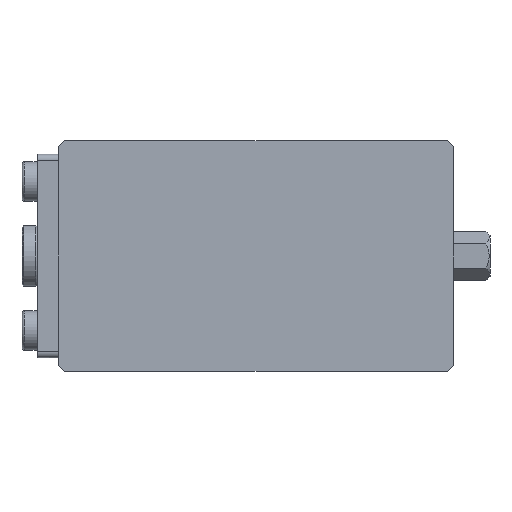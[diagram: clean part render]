
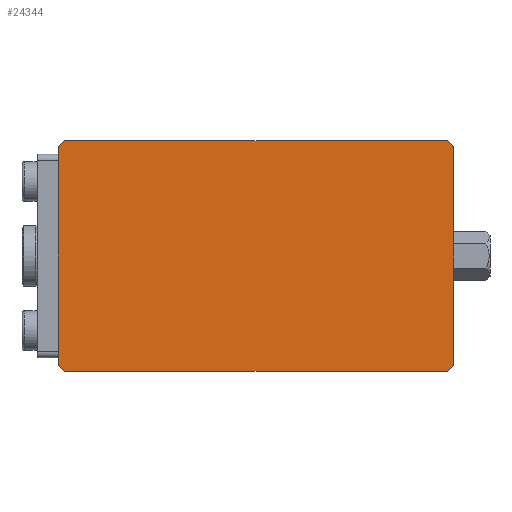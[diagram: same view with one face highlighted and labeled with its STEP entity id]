
A CAD part, front view. The second image highlights one B-rep face of the part: STEP entity #24344.
In plain terms, the highlighted planar face has unit normal (0, -1, 0).
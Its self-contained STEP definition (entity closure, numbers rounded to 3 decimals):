
#485 = ORIENTED_EDGE ( 'NONE', *, *, #61944, .T. ) ;
#2375 = CARTESIAN_POINT ( 'NONE',  ( 65., -56., -36. ) ) ;
#3207 = EDGE_LOOP ( 'NONE', ( #485, #63076, #24687, #57921, #12606, #48331, #15057, #34148 ) ) ;
#3384 = LINE ( 'NONE', #58543, #58209 ) ;
#3622 = CARTESIAN_POINT ( 'NONE',  ( -63., -56., -38. ) ) ;
#4255 = LINE ( 'NONE', #3622, #13674 ) ;
#4337 = CARTESIAN_POINT ( 'NONE',  ( 63., -56., 38. ) ) ;
#5201 = DIRECTION ( 'NONE',  ( 0., 0., -1. ) ) ;
#5643 = CARTESIAN_POINT ( 'NONE',  ( 65., -56., -38. ) ) ;
#8831 = EDGE_CURVE ( 'NONE', #51759, #31201, #15127, .T. ) ;
#9521 = VECTOR ( 'NONE', #33443, 1000. ) ;
#9992 = LINE ( 'NONE', #13931, #52871 ) ;
#11544 = VERTEX_POINT ( 'NONE', #2375 ) ;
#12606 = ORIENTED_EDGE ( 'NONE', *, *, #63874, .F. ) ;
#13104 = DIRECTION ( 'NONE',  ( 0., 0., 1. ) ) ;
#13674 = VECTOR ( 'NONE', #19292, 1000. ) ;
#13845 = DIRECTION ( 'NONE',  ( -0.707, 0., -0.707 ) ) ;
#13931 = CARTESIAN_POINT ( 'NONE',  ( 65., -56., 36. ) ) ;
#14496 = DIRECTION ( 'NONE',  ( -1., 0., 0. ) ) ;
#14748 = EDGE_CURVE ( 'NONE', #18038, #54392, #3384, .T. ) ;
#15057 = ORIENTED_EDGE ( 'NONE', *, *, #19943, .T. ) ;
#15127 = LINE ( 'NONE', #5643, #32784 ) ;
#17222 = CARTESIAN_POINT ( 'NONE',  ( 65., -56., 38. ) ) ;
#17444 = EDGE_CURVE ( 'NONE', #21158, #48352, #9992, .T. ) ;
#17772 = LINE ( 'NONE', #51728, #53533 ) ;
#18038 = VERTEX_POINT ( 'NONE', #18201 ) ;
#18201 = CARTESIAN_POINT ( 'NONE',  ( -63., -56., 38. ) ) ;
#18288 = CARTESIAN_POINT ( 'NONE',  ( -63., -56., -38. ) ) ;
#19292 = DIRECTION ( 'NONE',  ( 0.707, 0., -0.707 ) ) ;
#19943 = EDGE_CURVE ( 'NONE', #48352, #18038, #61930, .T. ) ;
#21158 = VERTEX_POINT ( 'NONE', #29603 ) ;
#24056 = CARTESIAN_POINT ( 'NONE',  ( 63., -56., -38. ) ) ;
#24334 = EDGE_CURVE ( 'NONE', #61958, #31201, #4255, .T. ) ;
#24344 = ADVANCED_FACE ( 'NONE', ( #63351 ), #28750, .F. ) ;
#24687 = ORIENTED_EDGE ( 'NONE', *, *, #8831, .F. ) ;
#25082 = EDGE_CURVE ( 'NONE', #51759, #11544, #38345, .T. ) ;
#27121 = CARTESIAN_POINT ( 'NONE',  ( -65., -56., 36. ) ) ;
#28750 = PLANE ( 'NONE',  #60556 ) ;
#29603 = CARTESIAN_POINT ( 'NONE',  ( 65., -56., 36. ) ) ;
#29875 = DIRECTION ( 'NONE',  ( -0.707, 0., 0.707 ) ) ;
#31201 = VERTEX_POINT ( 'NONE', #18288 ) ;
#32224 = DIRECTION ( 'NONE',  ( -1., 0., 0. ) ) ;
#32784 = VECTOR ( 'NONE', #14496, 1000. ) ;
#33443 = DIRECTION ( 'NONE',  ( 0.707, 0., 0.707 ) ) ;
#34148 = ORIENTED_EDGE ( 'NONE', *, *, #14748, .T. ) ;
#35549 = CARTESIAN_POINT ( 'NONE',  ( -65., -56., -36. ) ) ;
#37902 = DIRECTION ( 'NONE',  ( 0., 1., 0. ) ) ;
#38345 = LINE ( 'NONE', #53356, #9521 ) ;
#39769 = VECTOR ( 'NONE', #5201, 1000. ) ;
#48331 = ORIENTED_EDGE ( 'NONE', *, *, #17444, .T. ) ;
#48352 = VERTEX_POINT ( 'NONE', #4337 ) ;
#48737 = VECTOR ( 'NONE', #32224, 1000. ) ;
#49934 = LINE ( 'NONE', #63999, #39769 ) ;
#51728 = CARTESIAN_POINT ( 'NONE',  ( 65., -56., 38. ) ) ;
#51759 = VERTEX_POINT ( 'NONE', #24056 ) ;
#52871 = VECTOR ( 'NONE', #29875, 1000. ) ;
#53356 = CARTESIAN_POINT ( 'NONE',  ( 65., -56., -36. ) ) ;
#53533 = VECTOR ( 'NONE', #57581, 1000. ) ;
#54392 = VERTEX_POINT ( 'NONE', #27121 ) ;
#57581 = DIRECTION ( 'NONE',  ( 0., 0., -1. ) ) ;
#57921 = ORIENTED_EDGE ( 'NONE', *, *, #25082, .T. ) ;
#58209 = VECTOR ( 'NONE', #13845, 1000. ) ;
#58440 = CARTESIAN_POINT ( 'NONE',  ( 65., -56., 38. ) ) ;
#58543 = CARTESIAN_POINT ( 'NONE',  ( -63., -56., 38. ) ) ;
#60556 = AXIS2_PLACEMENT_3D ( 'NONE', #58440, #37902, #13104 ) ;
#61930 = LINE ( 'NONE', #17222, #48737 ) ;
#61944 = EDGE_CURVE ( 'NONE', #54392, #61958, #49934, .T. ) ;
#61958 = VERTEX_POINT ( 'NONE', #35549 ) ;
#63076 = ORIENTED_EDGE ( 'NONE', *, *, #24334, .T. ) ;
#63351 = FACE_OUTER_BOUND ( 'NONE', #3207, .T. ) ;
#63874 = EDGE_CURVE ( 'NONE', #21158, #11544, #17772, .T. ) ;
#63999 = CARTESIAN_POINT ( 'NONE',  ( -65., -56., 38. ) ) ;
